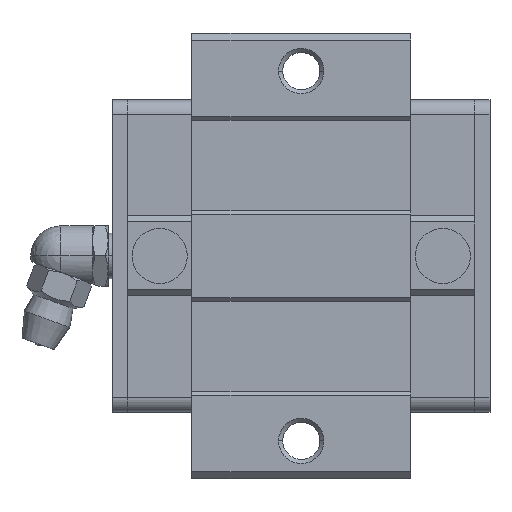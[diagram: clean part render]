
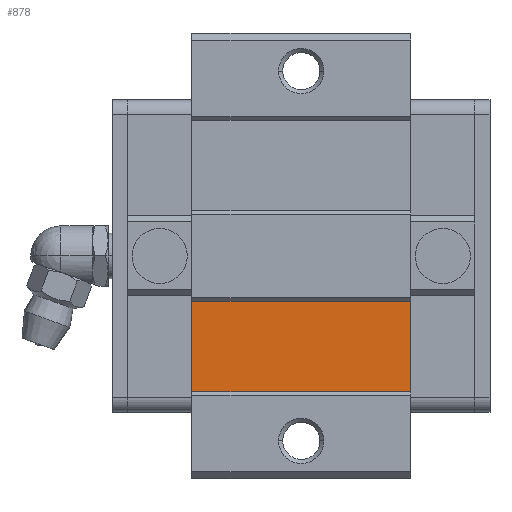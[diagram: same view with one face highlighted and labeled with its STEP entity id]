
A CAD part, top view. The second image highlights one B-rep face of the part: STEP entity #878.
In plain terms, the highlighted planar face has unit normal (0, 0, 1).
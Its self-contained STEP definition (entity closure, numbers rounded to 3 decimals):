
#817=CARTESIAN_POINT('POINT58',(39.5,-18.,21.55));
#818=VERTEX_POINT('VERTEX58',#817);
#825=CARTESIAN_POINT('POINT59',(10.5,-18.,21.55));
#826=VERTEX_POINT('VERTEX59',#825);
#827=CARTESIAN_POINT('POS93',(10.5,-18.,21.55));
#828=DIRECTION('DIR133',(1.,0.,0.));
#829=VECTOR('VEC53',#828,1.);
#830=LINE('STRAIGHT53',#827,#829);
#831=EDGE_CURVE('EDGE84',#826,#818,#830,.T.);
#848=CARTESIAN_POINT('POINT60',(39.5,-6.,21.55)
   );
#849=VERTEX_POINT('VERTEX60',#848);
#850=CARTESIAN_POINT('POS96',(39.5,-6.,21.55));
#851=DIRECTION('DIR137',(0.,1.,0.));
#852=VECTOR('VEC55',#851,1.);
#853=LINE('STRAIGHT55',#850,#852);
#854=EDGE_CURVE('EDGE86',#818,#849,#853,.T.);
#855=ORIENTED_EDGE('COEDGE136',*,*,#854,.T.);
#856=CARTESIAN_POINT('POINT61',(10.5,-6.,21.55)
   );
#857=VERTEX_POINT('VERTEX61',#856);
#858=CARTESIAN_POINT('POS97',(10.5,-6.,21.55));
#859=DIRECTION('DIR138',(1.,0.,0.));
#860=VECTOR('VEC56',#859,1.);
#861=LINE('STRAIGHT56',#858,#860);
#862=EDGE_CURVE('EDGE87',#857,#849,#861,.T.);
#863=ORIENTED_EDGE('COEDGE137',*,*,#862,.F.);
#864=CARTESIAN_POINT('POS98',(10.5,-6.,21.55));
#865=DIRECTION('DIR139',(0.,-1.,0.));
#866=VECTOR('VEC57',#865,1.);
#867=LINE('STRAIGHT57',#864,#866);
#868=EDGE_CURVE('EDGE88',#857,#826,#867,.T.);
#869=ORIENTED_EDGE('COEDGE138',*,*,#868,.T.);
#870=ORIENTED_EDGE('COEDGE139',*,*,#831,.T.);
#871=EDGE_LOOP('NONE',(#855,#863,#869,#870));
#872=FACE_BOUND('LOOP1',#871,.T.);
#873=CARTESIAN_POINT('POS99',(10.5,-18.,21.55));
#874=DIRECTION('DIR140',(0.,0.,1.));
#875=DIRECTION('DIR141',(1.,0.,0.));
#876=AXIS2_PLACEMENT_3D('AXIS42',#873,#874,#875);
#877=PLANE('PLANE16',#876);
#878=ADVANCED_FACE('FACE29',(#872),#877,.T.);
